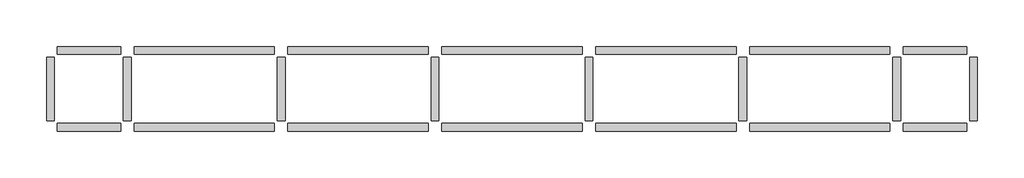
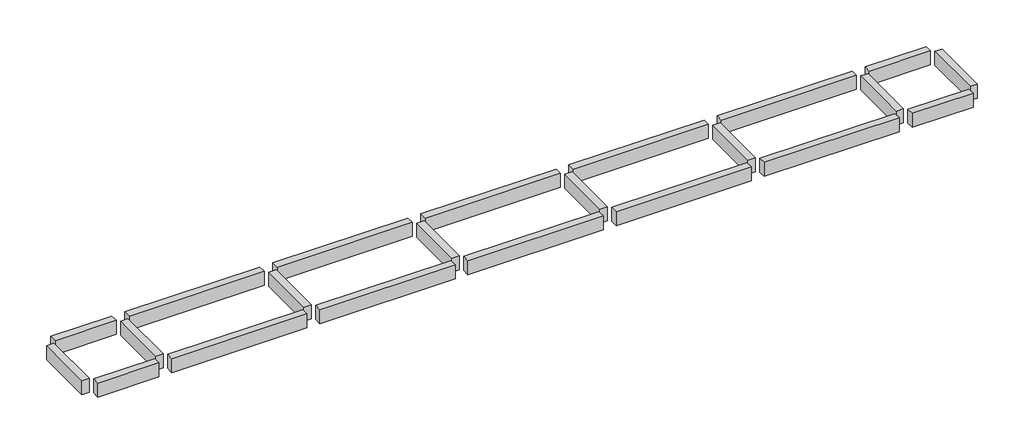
# One storey: 10 beams.
"""IFC4 building model written with IfcOpenShell, lengths in millimetres."""

import ifcopenshell
import ifcopenshell.guid

model = None  # the IFC model being written
_history = None  # IfcOwnerHistory: only IFC2X3 demands one
_inside = {}  # id of a spatial element -> (the spatial element, [elements in it])
_under = {}  # id of a project, library or spatial element -> (it, [spatial elements below it])
_declared = {}  # id of a project -> (the project, [libraries it declares])
_typed = {}  # id of a type object -> (the type object, [elements of that type])
_made_of = {}  # id of a material, layer set ... -> (it, [elements and type objects made of it])


def new_model(schema):
    """Start an empty IFC model of exactly this schema.

    Asked for "IFC4X3", IfcOpenShell would pick the latest addendum, in which some entities
    have other attributes; the version numbers below select the first issue.
    IFC2X3 requires an IfcOwnerHistory on every rooted entity: one is made here for all.
    """
    global model, _history
    if schema == "IFC4X3":
        model = ifcopenshell.file(schema_version=(4, 3, 0, 0))
    else:
        model = ifcopenshell.file(schema=schema)
    _inside.clear()
    _under.clear()
    _declared.clear()
    _typed.clear()
    _made_of.clear()
    _history = None
    if model.schema == "IFC2X3":
        org = make("IfcOrganization", Name="unknown")
        user = make(
            "IfcPersonAndOrganization",
            ThePerson=make("IfcPerson", FamilyName="unknown"),
            TheOrganization=org,
        )
        app = make(
            "IfcApplication",
            ApplicationDeveloper=org,
            Version="unknown",
            ApplicationFullName="unknown",
            ApplicationIdentifier="unknown",
        )
        _history = make(
            "IfcOwnerHistory",
            OwningUser=user,
            OwningApplication=app,
            ChangeAction="ADDED",
            CreationDate=0,
        )
    return model


def make(cls, **values):
    """One entity of the class cls with the attributes given. An attribute that is None is left unset."""
    return model.create_entity(
        cls, **{name: value for name, value in values.items() if value is not None}
    )


def rooted(cls, **values):
    """An entity with a GlobalId (a new one), such as an element, a storey or a relation."""
    return make(cls, GlobalId=ifcopenshell.guid.new(), OwnerHistory=_history, **values)


def si_unit(unit_type, name, prefix=None):
    """IfcSIUnit, for example si_unit("LENGTHUNIT", "METRE", prefix="MILLI")."""
    return make("IfcSIUnit", UnitType=unit_type, Prefix=prefix, Name=name)


def assignment(units):
    """IfcUnitAssignment: the units of a project."""
    return None if units is None else make("IfcUnitAssignment", Units=units)


def point(xyz):
    """IfcCartesianPoint."""
    return None if xyz is None else make("IfcCartesianPoint", Coordinates=xyz)


def direction(xyz):
    """IfcDirection."""
    return None if xyz is None else make("IfcDirection", DirectionRatios=xyz)


def frame(location, z_axis=None, x_axis=None):
    """IfcAxis2Placement3D, a coordinate frame: its origin and axes. An axis left out is left unset."""
    return make(
        "IfcAxis2Placement3D",
        Location=point(location),
        Axis=direction(z_axis),
        RefDirection=direction(x_axis),
    )


def origin():
    """The frame at (0, 0, 0) with its axes left unset."""
    return frame((0.0, 0.0, 0.0))


def place(relative_to, where):
    """IfcLocalPlacement: puts the frame where relative to a parent placement (None: the world)."""
    return make(
        "IfcLocalPlacement", PlacementRelTo=relative_to, RelativePlacement=where
    )


def context(
    kind, dimensions, precision=None, world=None, true_north=None, identifier=None
):
    """IfcGeometricRepresentationContext, for example the 3D "Model" context."""
    return make(
        "IfcGeometricRepresentationContext",
        ContextIdentifier=identifier,
        ContextType=kind,
        CoordinateSpaceDimension=dimensions,
        Precision=precision,
        WorldCoordinateSystem=world,
        TrueNorth=true_north,
    )


def project(units=None, contexts=None):
    """IfcProject with its units and contexts."""
    return rooted(
        "IfcProject",
        Name="project",
        RepresentationContexts=contexts,
        UnitsInContext=assignment(units),
    )


def spatial(cls, under=None, at=None, **own):
    """A site, building, storey or space (cls), placed at a placement, below another one or the project."""
    s = rooted(cls, ObjectPlacement=at, **own)
    if under is not None:
        _under.setdefault(under.id(), (under, []))[1].append(s)
    return s


def polyline(points):
    """IfcPolyline through the points."""
    return make("IfcPolyline", Points=[point(p) for p in points])


def outline(outer, holes=None, kind="AREA"):
    """IfcArbitraryClosedProfileDef: a profile drawn as a closed curve; with holes, ...WithVoids."""
    if holes is None:
        return make("IfcArbitraryClosedProfileDef", ProfileType=kind, OuterCurve=outer)
    return make(
        "IfcArbitraryProfileDefWithVoids",
        ProfileType=kind,
        OuterCurve=outer,
        InnerCurves=holes,
    )


def extrude(swept, where, along, depth):
    """IfcExtrudedAreaSolid: the profile swept, set in the frame where, extruded along a direction by depth."""
    return make(
        "IfcExtrudedAreaSolid",
        SweptArea=swept,
        Position=where,
        ExtrudedDirection=direction(along),
        Depth=depth,
    )


def shape(context_of_items, identifier, shape_type, items):
    """IfcShapeRepresentation: the items that make up one representation, for example the "Body"."""
    return make(
        "IfcShapeRepresentation",
        ContextOfItems=context_of_items,
        RepresentationIdentifier=identifier,
        RepresentationType=shape_type,
        Items=items,
    )


def made_of(thing, what):
    """Note that an element or type object is made of a material, layer set ...; save() writes the relation."""
    if what is not None:
        _made_of.setdefault(what.id(), (what, []))[1].append(thing)
    return thing


def element(
    cls,
    number,
    at=None,
    inside=None,
    cuts=None,
    type_object=None,
    material=None,
    context=None,
    identifier="Body",
    shape_type=None,
    held_by="IfcProductDefinitionShape",
    body=None,
    shapes=None,
    **own,
):
    """One element of the class cls, such as IfcWall. Its Tag is "e" and its number.

    at: its placement. inside: the storey or other place that contains it. cuts: it is an
    opening in that element (IfcRelVoidsElement). A single representation is given by context,
    identifier, shape_type and body (its items); several are given by shapes. held_by: the class
    of the entity that holds the representations. save() writes the other relations.
    """
    e = rooted(cls, Tag="e%d" % number, ObjectPlacement=at, **own)
    if body is not None:
        shapes = [shape(context, identifier, shape_type, body)]
    if shapes is not None:
        e.Representation = make(held_by, Representations=shapes)
    if inside is not None:
        _inside.setdefault(inside.id(), (inside, []))[1].append(e)
    if cuts is not None:
        rooted(
            "IfcRelVoidsElement", RelatingBuildingElement=cuts, RelatedOpeningElement=e
        )
    if type_object is not None:
        _typed.setdefault(type_object.id(), (type_object, []))[1].append(e)
    return made_of(e, material)


def aggregate(whole, parts):
    """IfcRelAggregates: a whole, such as a stair, and the parts it consists of."""
    return rooted("IfcRelAggregates", RelatingObject=whole, RelatedObjects=parts)


def save(model, path):
    """Write the relations noted so far, then the file.

    IfcRelAggregates (storeys below a building ...), IfcRelContainedInSpatialStructure (elements
    in a storey), IfcRelDefinesByType, IfcRelAssociatesMaterial and IfcRelDeclares: one each for
    every whole, place, type object, material and project.
    """
    for whole, parts in _under.values():
        aggregate(whole, parts)
    for where, things in _inside.values():
        rooted(
            "IfcRelContainedInSpatialStructure",
            RelatedElements=things,
            RelatingStructure=where,
        )
    for kind, things in _typed.values():
        rooted("IfcRelDefinesByType", RelatedObjects=things, RelatingType=kind)
    for what, things in _made_of.values():
        rooted("IfcRelAssociatesMaterial", RelatedObjects=things, RelatingMaterial=what)
    for by, libraries in _declared.values():
        rooted("IfcRelDeclares", RelatingContext=by, RelatedDefinitions=libraries)
    model.write(path)


model = new_model("IFC4")

# Units and contexts
model_context = context("Model", 3, world=origin())
ifc_project = project(units=[si_unit("LENGTHUNIT", "METRE", prefix="MILLI")], contexts=[model_context])

# Site, building, storey
site = spatial("IfcSite", under=ifc_project)
building = spatial("IfcBuilding", under=site)
storey = spatial("IfcBuildingStorey", under=building, Name="BALDRAME", Elevation=1500.0)

# Beams
placement = place(None, origin())
element("IfcBeam", 1, ObjectType="TQS - Viga retangular : 20,0 x 40,0", at=placement, inside=storey, context=model_context, shape_type="SweptSolid", body=[
    extrude(outline(polyline([(18048.2864, 922.9064), (18048.2864, 1122.9064), (19698.2864, 1122.9064), (19698.2864, 922.9064), (18048.2864, 922.9064)])), frame((0.0, 0.0, 1100.0), z_axis=(0.0, 0.0, 1.0), x_axis=(1.0, 0.0, 0.0)), (0.0, 0.0, 1.0), 400.0),
    extrude(outline(polyline([(-3951.7136, 922.9064), (-3951.7136, 1122.9064), (-2301.7136, 1122.9064), (-2301.7136, 922.9064), (-3951.7136, 922.9064)])), frame((0.0, 0.0, 1100.0), z_axis=(0.0, 0.0, 1.0), x_axis=(1.0, 0.0, 0.0)), (0.0, 0.0, 1.0), 400.0),
    extrude(outline(polyline([(-1951.7136, 922.9064), (-1951.7136, 1122.9064), (1698.2864, 1122.9064), (1698.2864, 922.9064), (-1951.7136, 922.9064)])), frame((0.0, 0.0, 1100.0), z_axis=(0.0, 0.0, 1.0), x_axis=(1.0, 0.0, 0.0)), (0.0, 0.0, 1.0), 400.0),
    extrude(outline(polyline([(2048.2864, 922.9064), (2048.2864, 1122.9064), (5698.2864, 1122.9064), (5698.2864, 922.9064), (2048.2864, 922.9064)])), frame((0.0, 0.0, 1100.0), z_axis=(0.0, 0.0, 1.0), x_axis=(1.0, 0.0, 0.0)), (0.0, 0.0, 1.0), 400.0),
    extrude(outline(polyline([(6048.2864, 922.9064), (6048.2864, 1122.9064), (9698.2864, 1122.9064), (9698.2864, 922.9064), (6048.2864, 922.9064)])), frame((0.0, 0.0, 1100.0), z_axis=(0.0, 0.0, 1.0), x_axis=(1.0, 0.0, 0.0)), (0.0, 0.0, 1.0), 400.0),
    extrude(outline(polyline([(10048.2864, 922.9064), (10048.2864, 1122.9064), (13698.2864, 1122.9064), (13698.2864, 922.9064), (10048.2864, 922.9064)])), frame((0.0, 0.0, 1100.0), z_axis=(0.0, 0.0, 1.0), x_axis=(1.0, 0.0, 0.0)), (0.0, 0.0, 1.0), 400.0),
    extrude(outline(polyline([(14048.2864, 922.9064), (14048.2864, 1122.9064), (17698.2864, 1122.9064), (17698.2864, 922.9064), (14048.2864, 922.9064)])), frame((0.0, 0.0, 1100.0), z_axis=(0.0, 0.0, 1.0), x_axis=(1.0, 0.0, 0.0)), (0.0, 0.0, 1.0), 400.0),
])
element("IfcBeam", 2, ObjectType="TQS - Viga retangular : 20,0 x 40,0", at=placement, inside=storey, context=model_context, shape_type="SweptSolid", body=[
    extrude(outline(polyline([(18048.2864, -1077.0936), (18048.2864, -877.0936), (19698.2864, -877.0936), (19698.2864, -1077.0936), (18048.2864, -1077.0936)])), frame((0.0, 0.0, 1100.0), z_axis=(0.0, 0.0, 1.0), x_axis=(1.0, 0.0, 0.0)), (0.0, 0.0, 1.0), 400.0),
    extrude(outline(polyline([(-3951.7136, -1077.0936), (-3951.7136, -877.0936), (-2301.7136, -877.0936), (-2301.7136, -1077.0936), (-3951.7136, -1077.0936)])), frame((0.0, 0.0, 1100.0), z_axis=(0.0, 0.0, 1.0), x_axis=(1.0, 0.0, 0.0)), (0.0, 0.0, 1.0), 400.0),
    extrude(outline(polyline([(-1951.7136, -1077.0936), (-1951.7136, -877.0936), (1698.2864, -877.0936), (1698.2864, -1077.0936), (-1951.7136, -1077.0936)])), frame((0.0, 0.0, 1100.0), z_axis=(0.0, 0.0, 1.0), x_axis=(1.0, 0.0, 0.0)), (0.0, 0.0, 1.0), 400.0),
    extrude(outline(polyline([(2048.2864, -1077.0936), (2048.2864, -877.0936), (5698.2864, -877.0936), (5698.2864, -1077.0936), (2048.2864, -1077.0936)])), frame((0.0, 0.0, 1100.0), z_axis=(0.0, 0.0, 1.0), x_axis=(1.0, 0.0, 0.0)), (0.0, 0.0, 1.0), 400.0),
    extrude(outline(polyline([(6048.2864, -1077.0936), (6048.2864, -877.0936), (9698.2864, -877.0936), (9698.2864, -1077.0936), (6048.2864, -1077.0936)])), frame((0.0, 0.0, 1100.0), z_axis=(0.0, 0.0, 1.0), x_axis=(1.0, 0.0, 0.0)), (0.0, 0.0, 1.0), 400.0),
    extrude(outline(polyline([(10048.2864, -1077.0936), (10048.2864, -877.0936), (13698.2864, -877.0936), (13698.2864, -1077.0936), (10048.2864, -1077.0936)])), frame((0.0, 0.0, 1100.0), z_axis=(0.0, 0.0, 1.0), x_axis=(1.0, 0.0, 0.0)), (0.0, 0.0, 1.0), 400.0),
    extrude(outline(polyline([(14048.2864, -1077.0936), (14048.2864, -877.0936), (17698.2864, -877.0936), (17698.2864, -1077.0936), (14048.2864, -1077.0936)])), frame((0.0, 0.0, 1100.0), z_axis=(0.0, 0.0, 1.0), x_axis=(1.0, 0.0, 0.0)), (0.0, 0.0, 1.0), 400.0),
])
element("IfcBeam", 3, ObjectType="TQS - Viga retangular : 20,0 x 40,0", at=placement, inside=storey, context=model_context, shape_type="SweptSolid", body=[
    extrude(outline(polyline([(19773.2864, 847.9064), (19973.2864, 847.9064), (19973.2864, -802.0936), (19773.2864, -802.0936), (19773.2864, 847.9064)])), frame((0.0, 0.0, 1100.0), z_axis=(0.0, 0.0, 1.0), x_axis=(1.0, 0.0, 0.0)), (0.0, 0.0, 1.0), 400.0),
])
element("IfcBeam", 4, ObjectType="TQS - Viga retangular : 20,0 x 40,0", at=placement, inside=storey, context=model_context, shape_type="SweptSolid", body=[
    extrude(outline(polyline([(17773.2864, 847.9064), (17973.2864, 847.9064), (17973.2864, -802.0936), (17773.2864, -802.0936), (17773.2864, 847.9064)])), frame((0.0, 0.0, 1100.0), z_axis=(0.0, 0.0, 1.0), x_axis=(1.0, 0.0, 0.0)), (0.0, 0.0, 1.0), 400.0),
])
element("IfcBeam", 5, ObjectType="TQS - Viga retangular : 20,0 x 40,0", at=placement, inside=storey, context=model_context, shape_type="SweptSolid", body=[
    extrude(outline(polyline([(13773.2864, 847.9064), (13973.2864, 847.9064), (13973.2864, -802.0936), (13773.2864, -802.0936), (13773.2864, 847.9064)])), frame((0.0, 0.0, 1100.0), z_axis=(0.0, 0.0, 1.0), x_axis=(1.0, 0.0, 0.0)), (0.0, 0.0, 1.0), 400.0),
])
element("IfcBeam", 6, ObjectType="TQS - Viga retangular : 20,0 x 40,0", at=placement, inside=storey, context=model_context, shape_type="SweptSolid", body=[
    extrude(outline(polyline([(9773.2864, 847.9064), (9973.2864, 847.9064), (9973.2864, -802.0936), (9773.2864, -802.0936), (9773.2864, 847.9064)])), frame((0.0, 0.0, 1100.0), z_axis=(0.0, 0.0, 1.0), x_axis=(1.0, 0.0, 0.0)), (0.0, 0.0, 1.0), 400.0),
])
element("IfcBeam", 7, ObjectType="TQS - Viga retangular : 20,0 x 40,0", at=placement, inside=storey, context=model_context, shape_type="SweptSolid", body=[
    extrude(outline(polyline([(5773.2864, 847.9064), (5973.2864, 847.9064), (5973.2864, -802.0936), (5773.2864, -802.0936), (5773.2864, 847.9064)])), frame((0.0, 0.0, 1100.0), z_axis=(0.0, 0.0, 1.0), x_axis=(1.0, 0.0, 0.0)), (0.0, 0.0, 1.0), 400.0),
])
element("IfcBeam", 8, ObjectType="TQS - Viga retangular : 20,0 x 40,0", at=placement, inside=storey, context=model_context, shape_type="SweptSolid", body=[
    extrude(outline(polyline([(1773.2864, 847.9064), (1973.2864, 847.9064), (1973.2864, -802.0936), (1773.2864, -802.0936), (1773.2864, 847.9064)])), frame((0.0, 0.0, 1100.0), z_axis=(0.0, 0.0, 1.0), x_axis=(1.0, 0.0, 0.0)), (0.0, 0.0, 1.0), 400.0),
])
element("IfcBeam", 9, ObjectType="TQS - Viga retangular : 20,0 x 40,0", at=placement, inside=storey, context=model_context, shape_type="SweptSolid", body=[
    extrude(outline(polyline([(-2226.7136, 847.9064), (-2026.7136, 847.9064), (-2026.7136, -802.0936), (-2226.7136, -802.0936), (-2226.7136, 847.9064)])), frame((0.0, 0.0, 1100.0), z_axis=(0.0, 0.0, 1.0), x_axis=(1.0, 0.0, 0.0)), (0.0, 0.0, 1.0), 400.0),
])
element("IfcBeam", 10, ObjectType="TQS - Viga retangular : 20,0 x 40,0", at=placement, inside=storey, context=model_context, shape_type="SweptSolid", body=[
    extrude(outline(polyline([(-4226.7136, 847.9064), (-4026.7136, 847.9064), (-4026.7136, -802.0936), (-4226.7136, -802.0936), (-4226.7136, 847.9064)])), frame((0.0, 0.0, 1100.0), z_axis=(0.0, 0.0, 1.0), x_axis=(1.0, 0.0, 0.0)), (0.0, 0.0, 1.0), 400.0),
])

save(model, "model.ifc")
